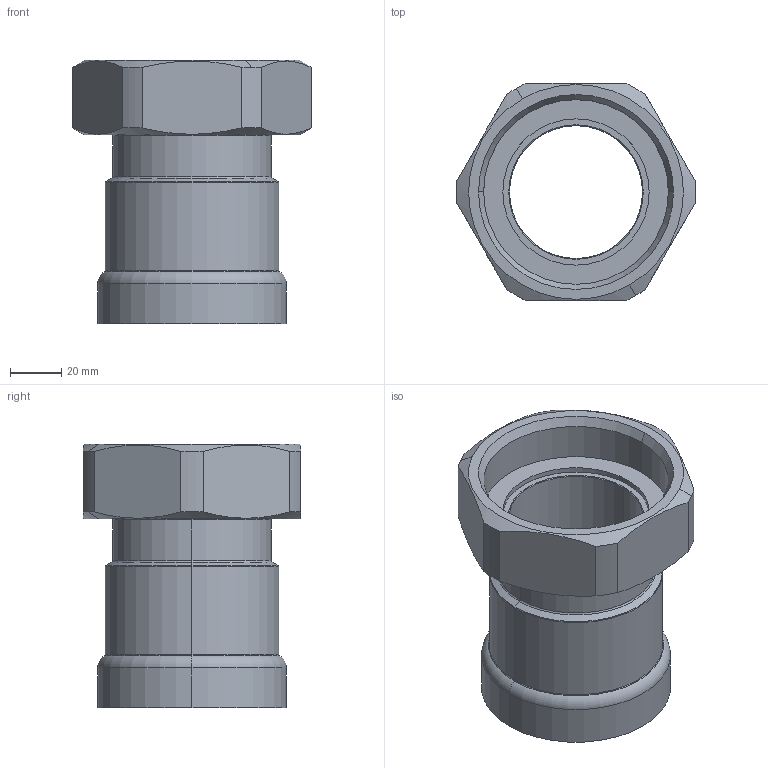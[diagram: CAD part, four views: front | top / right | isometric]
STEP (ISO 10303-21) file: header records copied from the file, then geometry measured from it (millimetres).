
FILE_DESCRIPTION(('Creo Elements/Direct Modeling STEP Export'),'2;1');
FILE_NAME('C9446_2_G2-1-2.stp','2020-07-20T15:43:23',(''),(''),'PTC Creo Elements/Direct Modeling STEP processor for AP214 (Solid Model)','PTC Creo Elements/Direct Modeling 19.0C 15-Aug-2015 (C) Parametric Technology GmbH','');
FILE_SCHEMA(('AUTOMOTIVE_DESIGN { 1 0 10303 214 1 1 1 1 }'));
Length unit declared in the file: millimetre
Products named in the file (2): C9446_2_G2-1-2
Assembly tree (1 placements, depth 2):
  C9446_2_G2-1-2
    C9446_2_G2-1-2
Bounding box: 93.45 x 85 x 103 mm (x, y, z)
Volume: 146963.5 mm3; surface area: 52753 mm2
Topology: 1 solids, 1 shells, 52 faces, 123 edges, 77 vertices
Faces by surface type: cylinder 20, plane 12, torus 10, cone 10
Entity records: 2454 total; most frequent: CARTESIAN_POINT 1265, ORIENTED_EDGE 246, DIRECTION 228, EDGE_CURVE 123, AXIS2_PLACEMENT_3D 96, VERTEX_POINT 77, EDGE_LOOP 58, FACE_OUTER_BOUND 52
